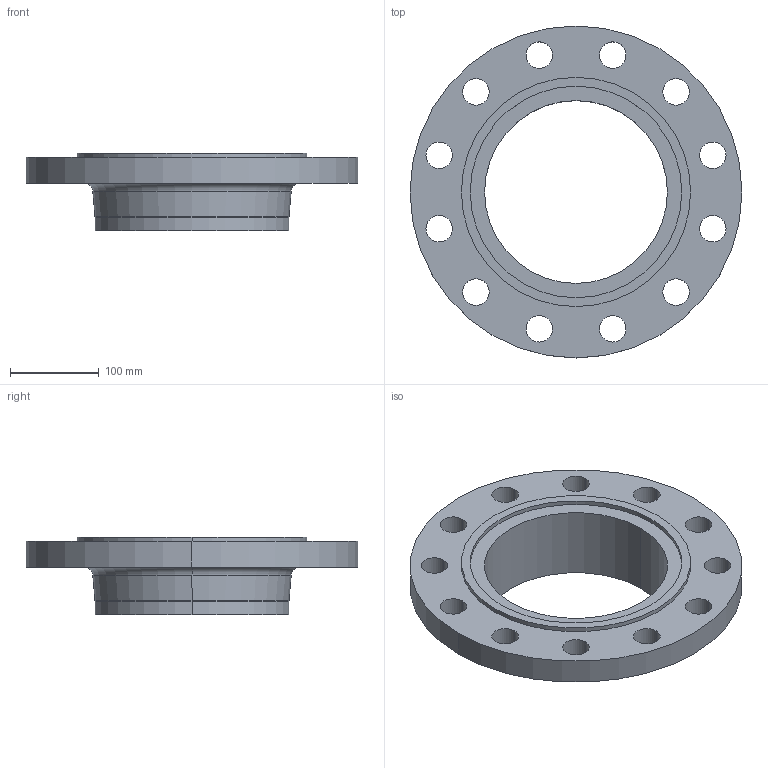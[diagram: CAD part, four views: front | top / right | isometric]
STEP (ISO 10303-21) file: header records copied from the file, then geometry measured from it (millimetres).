
FILE_DESCRIPTION (( 'STEP AP214' ), '1' );
FILE_NAME ('PN40 DN200 Type 11 - Type C Face.STEP', '2019-01-05T02:19:14', ( '' ), ( '' ), 'SwSTEP 2.0', 'SolidWorks 2019', '' );
FILE_SCHEMA (( 'AUTOMOTIVE_DESIGN' ));
Length unit declared in the file: millimetre
Products named in the file (1): PN40 DN200 Type 11 - Type C Face
Bounding box: 375 x 375 x 88 mm (x, y, z)
Volume: 2308506.1 mm3; surface area: 298507.3 mm2
Topology: 1 solids, 1 shells, 45 faces, 114 edges, 74 vertices
Faces by surface type: cylinder 34, plane 5, torus 4, cone 2
Entity records: 1484 total; most frequent: DIRECTION 284, CARTESIAN_POINT 234, ORIENTED_EDGE 228, AXIS2_PLACEMENT_3D 124, EDGE_CURVE 114, CIRCLE 78, EDGE_LOOP 74, VERTEX_POINT 74
